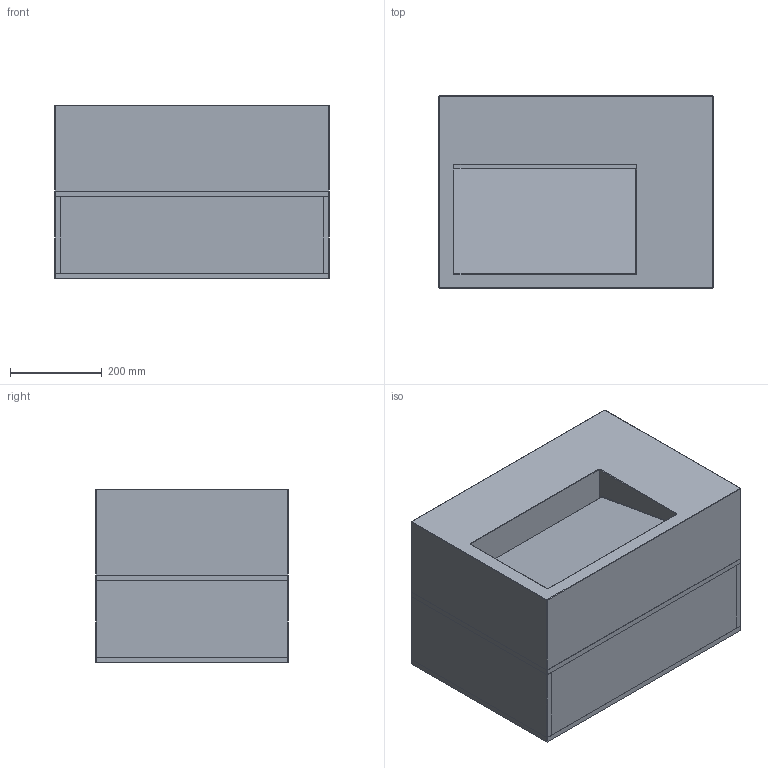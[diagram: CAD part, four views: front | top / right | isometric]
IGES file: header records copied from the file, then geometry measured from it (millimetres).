
Global section: file name: \\Archi-NAS\Comune\X GIOVANNI\SCHEDE PRODOTTO\LAVABI\SOSPESI\CUBATECNO\3D\MOMA DESIGN_LAVABI SOSPESI_CUBATECNO 5.igs; native system: Rhinoceros ( Jan 17 2018 ); preprocessor: Trout Lake IGES 012 Jan 17 2018; date: 230629.150431; units: millimetre
Bounding box: 598.87 x 420.4 x 379.64 mm (x, y, z)
Surface area: 3171875.4 mm2 (no closed solid volume)
Topology: 0 solids, 0 shells, 110 faces, 513 edges, 512 vertices
Faces by surface type: bspline 110
